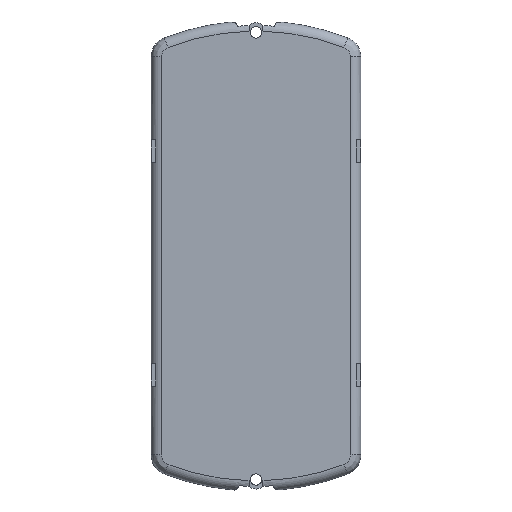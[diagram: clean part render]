
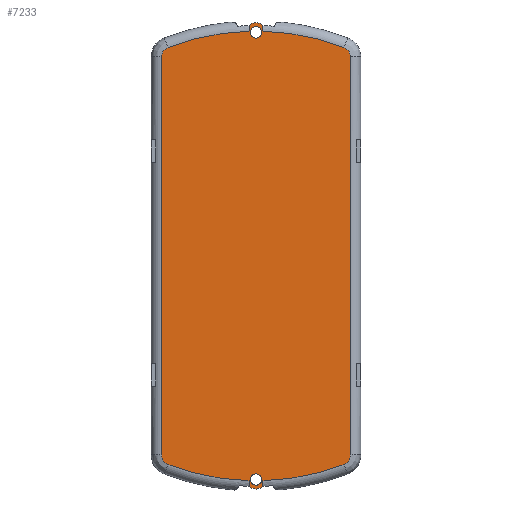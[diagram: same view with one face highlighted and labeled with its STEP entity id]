
A CAD part, front view. The second image highlights one B-rep face of the part: STEP entity #7233.
In plain terms, the highlighted planar face has unit normal (0, -1, 0).
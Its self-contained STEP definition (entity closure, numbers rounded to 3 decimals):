
#140=CARTESIAN_POINT('',(37.,0.,42.868));
#170=CARTESIAN_POINT('',(0.,0.,52.5));
#171=DIRECTION('',(0.,-1.,0.));
#172=DIRECTION('',(1.,0.,0.));
#173=AXIS2_PLACEMENT_3D('',#170,#171,#172);
#175=CARTESIAN_POINT('',(0.,0.,52.5));
#176=DIRECTION('',(0.,1.,0.));
#177=DIRECTION('',(1.,0.,0.));
#178=AXIS2_PLACEMENT_3D('',#175,#176,#177);
#180=CARTESIAN_POINT('',(0.,0.,-122.5));
#181=DIRECTION('',(0.,1.,0.));
#182=DIRECTION('',(-0.977,0.,-0.211));
#183=AXIS2_PLACEMENT_3D('',#180,#181,#182);
#185=CARTESIAN_POINT('',(0.,0.,-43.));
#186=DIRECTION('',(0.,-1.,0.));
#187=DIRECTION('',(-0.024,0.,1.));
#188=AXIS2_PLACEMENT_3D('',#185,#186,#187);
#190=DIRECTION('',(-0.151,0.,0.989));
#191=VECTOR('',#190,2.189);
#192=CARTESIAN_POINT('',(-2.347,0.,52.963));
#193=LINE('',#192,#191);
#194=CARTESIAN_POINT('',(0.,0.,52.5));
#195=DIRECTION('',(0.,1.,0.));
#196=DIRECTION('',(-0.714,0.,0.7));
#197=AXIS2_PLACEMENT_3D('',#194,#195,#196);
#199=DIRECTION('',(-0.151,0.,-0.989));
#200=VECTOR('',#199,2.189);
#201=CARTESIAN_POINT('',(2.677,0.,55.126));
#202=LINE('',#201,#200);
#203=CARTESIAN_POINT('',(0.,0.,-43.));
#204=DIRECTION('',(0.,-1.,0.));
#205=DIRECTION('',(0.359,0.,0.933));
#206=AXIS2_PLACEMENT_3D('',#203,#204,#205);
#208=CARTESIAN_POINT('',(33.,0.,42.868));
#209=DIRECTION('',(0.,-1.,0.));
#210=DIRECTION('',(1.,0.,0.));
#211=AXIS2_PLACEMENT_3D('',#208,#209,#210);
#213=DIRECTION('',(0.,0.,-1.));
#214=VECTOR('',#213,155.768);
#215=CARTESIAN_POINT('',(37.,0.,42.868));
#216=LINE('',#215,#214);
#217=CARTESIAN_POINT('',(33.032,0.,-112.9));
#218=DIRECTION('',(0.,1.,0.));
#219=DIRECTION('',(1.,0.,0.));
#220=AXIS2_PLACEMENT_3D('',#217,#218,#219);
#222=CARTESIAN_POINT('',(0.,0.,-27.));
#223=DIRECTION('',(0.,1.,0.));
#224=DIRECTION('',(0.359,0.,-0.933));
#225=AXIS2_PLACEMENT_3D('',#222,#223,#224);
#227=DIRECTION('',(0.161,0.,-0.987));
#228=VECTOR('',#227,2.183);
#229=CARTESIAN_POINT('',(2.327,0.,-122.972));
#230=LINE('',#229,#228);
#231=CARTESIAN_POINT('',(0.,0.,-122.5));
#232=DIRECTION('',(0.,1.,0.));
#233=DIRECTION('',(0.714,0.,-0.7));
#234=AXIS2_PLACEMENT_3D('',#231,#232,#233);
#236=DIRECTION('',(0.161,0.,0.987));
#237=VECTOR('',#236,2.183);
#238=CARTESIAN_POINT('',(-2.677,0.,-125.126));
#239=LINE('',#238,#237);
#240=CARTESIAN_POINT('',(0.,0.,-27.));
#241=DIRECTION('',(0.,1.,0.));
#242=DIRECTION('',(-0.024,0.,-1.));
#243=AXIS2_PLACEMENT_3D('',#240,#241,#242);
#245=CARTESIAN_POINT('',(-33.032,0.,-112.9));
#246=DIRECTION('',(0.,1.,0.));
#247=DIRECTION('',(-0.359,0.,-0.933));
#248=AXIS2_PLACEMENT_3D('',#245,#246,#247);
#250=DIRECTION('',(0.,0.,1.));
#251=VECTOR('',#250,155.769);
#252=CARTESIAN_POINT('',(-37.,0.,-112.9));
#253=LINE('',#252,#251);
#254=CARTESIAN_POINT('',(-33.,0.,42.868));
#255=DIRECTION('',(0.,-1.,0.));
#256=DIRECTION('',(-0.359,0.,0.933));
#257=AXIS2_PLACEMENT_3D('',#254,#255,#256);
#321=CARTESIAN_POINT('',(2.347,0.,52.963));
#392=CARTESIAN_POINT('',(-2.347,0.,52.963));
#4447=CARTESIAN_POINT('',(0.,0.,-122.5));
#4448=DIRECTION('',(0.,1.,0.));
#4449=DIRECTION('',(0.,0.,1.));
#4450=AXIS2_PLACEMENT_3D('',#4447,#4448,#4449);
#5590=CARTESIAN_POINT('',(0.,0.,-120.25));
#5591=VERTEX_POINT('',#5590);
#5694=CARTESIAN_POINT('',(-2.199,0.,-122.975));
#5695=VERTEX_POINT('',#5694);
#5696=CARTESIAN_POINT('',(-2.677,0.,-125.126));
#5697=CARTESIAN_POINT('',(-2.327,0.,-122.972));
#5698=VERTEX_POINT('',#5696);
#5699=VERTEX_POINT('',#5697);
#5700=CARTESIAN_POINT('',(2.327,0.,-122.972));
#5701=CARTESIAN_POINT('',(2.677,0.,-125.126));
#5702=VERTEX_POINT('',#5700);
#5703=VERTEX_POINT('',#5701);
#6508=CARTESIAN_POINT('',(-34.456,0.,-116.603));
#6509=CARTESIAN_POINT('',(-37.,0.,-112.9));
#6510=VERTEX_POINT('',#6508);
#6511=VERTEX_POINT('',#6509);
#6514=CARTESIAN_POINT('',(37.,0.,-112.9));
#6515=CARTESIAN_POINT('',(34.456,0.,-116.603));
#6516=VERTEX_POINT('',#6514);
#6517=VERTEX_POINT('',#6515);
#6660=CARTESIAN_POINT('',(2.25,0.,52.5));
#6661=CARTESIAN_POINT('',(-2.25,0.,52.5));
#6662=VERTEX_POINT('',#6660);
#6663=VERTEX_POINT('',#6661);
#6716=CARTESIAN_POINT('',(-37.,0.,42.868));
#6718=VERTEX_POINT('',#6716);
#6722=CARTESIAN_POINT('',(-34.435,0.,46.602));
#6723=VERTEX_POINT('',#6722);
#6725=VERTEX_POINT('',#140);
#6726=CARTESIAN_POINT('',(34.435,0.,46.602));
#6727=VERTEX_POINT('',#6726);
#6736=CARTESIAN_POINT('',(-2.677,0.,55.126));
#6737=CARTESIAN_POINT('',(2.677,0.,55.126));
#6738=VERTEX_POINT('',#6736);
#6739=VERTEX_POINT('',#6737);
#6740=VERTEX_POINT('',#321);
#6743=VERTEX_POINT('',#392);
#7184=CARTESIAN_POINT('',(41.,0.,83.));
#7185=DIRECTION('',(0.,-1.,0.));
#7186=DIRECTION('',(0.,0.,-1.));
#7187=AXIS2_PLACEMENT_3D('',#7184,#7185,#7186);
#7188=PLANE('',#7187);
#7190=ORIENTED_EDGE('',*,*,#7189,.F.);
#7192=ORIENTED_EDGE('',*,*,#7191,.T.);
#7194=ORIENTED_EDGE('',*,*,#7193,.T.);
#7196=ORIENTED_EDGE('',*,*,#7195,.T.);
#7198=ORIENTED_EDGE('',*,*,#7197,.F.);
#7199=ORIENTED_EDGE('',*,*,#7175,.F.);
#7200=ORIENTED_EDGE('',*,*,#7152,.T.);
#7202=ORIENTED_EDGE('',*,*,#7201,.T.);
#7204=ORIENTED_EDGE('',*,*,#7203,.T.);
#7206=ORIENTED_EDGE('',*,*,#7205,.T.);
#7208=ORIENTED_EDGE('',*,*,#7207,.T.);
#7210=ORIENTED_EDGE('',*,*,#7209,.T.);
#7212=ORIENTED_EDGE('',*,*,#7211,.T.);
#7214=ORIENTED_EDGE('',*,*,#7213,.T.);
#7216=ORIENTED_EDGE('',*,*,#7215,.T.);
#7218=ORIENTED_EDGE('',*,*,#7217,.F.);
#7219=EDGE_LOOP('',(#7190,#7192,#7194,#7196,#7198,#7199,#7200,#7202,#7204,#7206,
#7208,#7210,#7212,#7214,#7216,#7218));
#7220=FACE_OUTER_BOUND('',#7219,.F.);
#7222=ORIENTED_EDGE('',*,*,#7221,.F.);
#7224=ORIENTED_EDGE('',*,*,#7223,.F.);
#7225=EDGE_LOOP('',(#7222,#7224));
#7226=FACE_BOUND('',#7225,.F.);
#7228=ORIENTED_EDGE('',*,*,#7227,.T.);
#7230=ORIENTED_EDGE('',*,*,#7229,.F.);
#7231=EDGE_LOOP('',(#7228,#7230));
#7232=FACE_BOUND('',#7231,.F.);
#174=CIRCLE('',#173,2.25);
#179=CIRCLE('',#178,2.25);
#184=CIRCLE('',#183,2.25);
#189=CIRCLE('',#188,95.991);
#198=CIRCLE('',#197,3.75);
#207=CIRCLE('',#206,95.991);
#212=CIRCLE('',#211,4.);
#221=CIRCLE('',#220,3.968);
#226=CIRCLE('',#225,96.);
#235=CIRCLE('',#234,3.75);
#244=CIRCLE('',#243,96.);
#249=CIRCLE('',#248,3.968);
#258=CIRCLE('',#257,4.);
#4451=CIRCLE('',#4450,2.25);
#7152=EDGE_CURVE('',#6725,#6516,#216,.T.);
#7175=EDGE_CURVE('',#6725,#6727,#212,.T.);
#7189=EDGE_CURVE('',#6743,#6723,#189,.T.);
#7191=EDGE_CURVE('',#6743,#6738,#193,.T.);
#7193=EDGE_CURVE('',#6738,#6739,#198,.T.);
#7195=EDGE_CURVE('',#6739,#6740,#202,.T.);
#7197=EDGE_CURVE('',#6727,#6740,#207,.T.);
#7201=EDGE_CURVE('',#6516,#6517,#221,.T.);
#7203=EDGE_CURVE('',#6517,#5702,#226,.T.);
#7205=EDGE_CURVE('',#5702,#5703,#230,.T.);
#7207=EDGE_CURVE('',#5703,#5698,#235,.T.);
#7209=EDGE_CURVE('',#5698,#5699,#239,.T.);
#7211=EDGE_CURVE('',#5699,#6510,#244,.T.);
#7213=EDGE_CURVE('',#6510,#6511,#249,.T.);
#7215=EDGE_CURVE('',#6511,#6718,#253,.T.);
#7217=EDGE_CURVE('',#6723,#6718,#258,.T.);
#7221=EDGE_CURVE('',#5695,#5591,#184,.T.);
#7223=EDGE_CURVE('',#5591,#5695,#4451,.T.);
#7227=EDGE_CURVE('',#6662,#6663,#174,.T.);
#7229=EDGE_CURVE('',#6662,#6663,#179,.T.);
#7233=ADVANCED_FACE('',(#7220,#7226,#7232),#7188,.T.);
